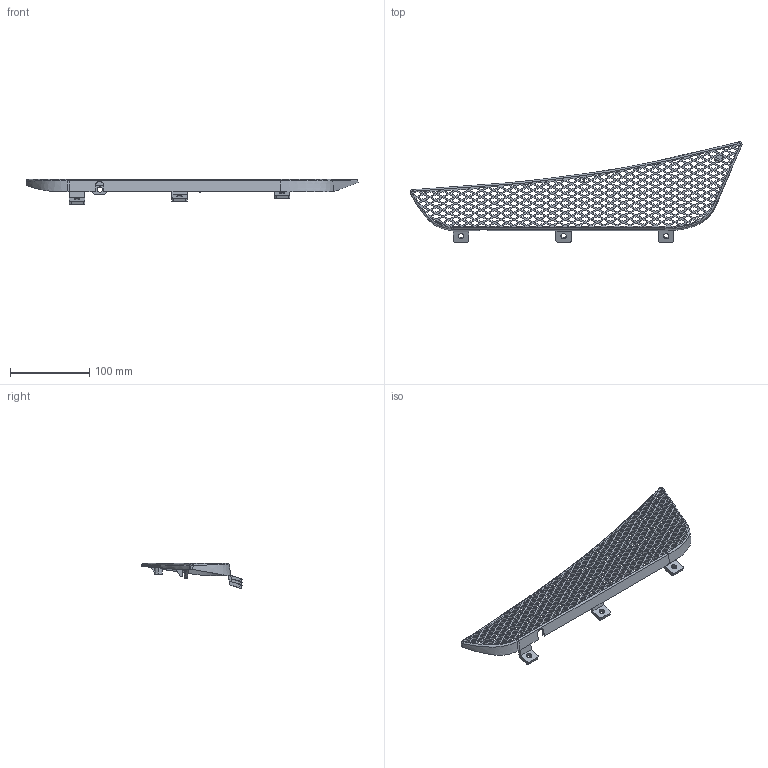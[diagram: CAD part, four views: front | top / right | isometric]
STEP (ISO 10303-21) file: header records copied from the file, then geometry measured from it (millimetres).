
FILE_DESCRIPTION(/* description */ (''),/* implementation_level */ '2;1');
FILE_NAME(/* name */ 'fiat_1_19_Replacement_Part',/* time_stamp */ '2020-01-05T07:57:21-05:00',/* author */ (''),/* organization */ (''),/* preprocessor_version */ 'ST-DEVELOPER v16.5',/* originating_system */ '',/* authorisation */ '');
FILE_SCHEMA (('AUTOMOTIVE_DESIGN'));
Length unit declared in the file: inch
Products named in the file (1): Document
Bounding box: 419.22 x 126.57 x 31.62 mm (x, y, z)
Volume: 63080.9 mm3; surface area: 73022.8 mm2
Topology: 1 solids, 1 shells, 1692 faces, 5060 edges, 3357 vertices
Faces by surface type: plane 1273, bspline 419
Entity records: 57403 total; most frequent: CARTESIAN_POINT 23134, ORIENTED_EDGE 10118, EDGE_CURVE 5059, B_SPLINE_CURVE_WITH_KNOTS 4894, VERTEX_POINT 3357, EDGE_LOOP 2474, ADVANCED_FACE 1692, FACE_OUTER_BOUND 1692
